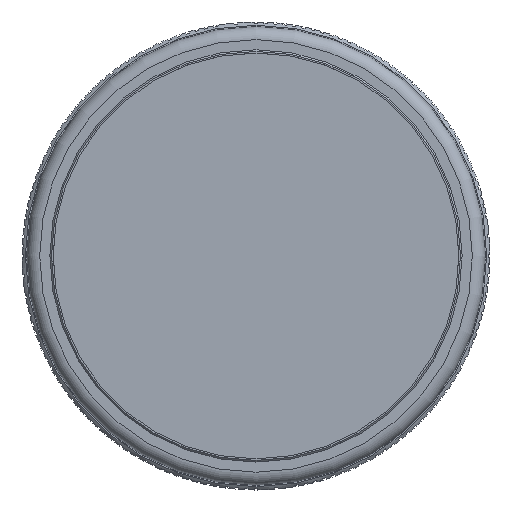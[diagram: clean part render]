
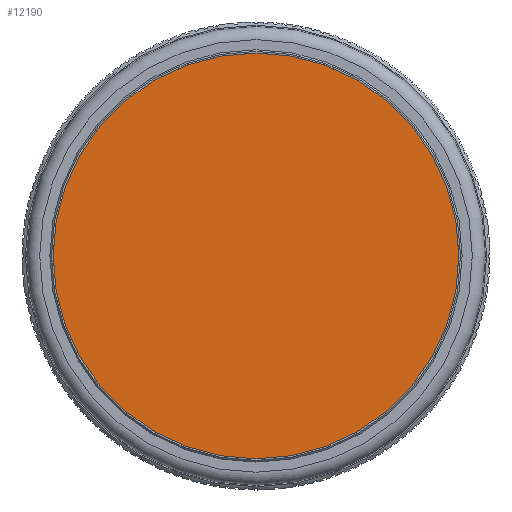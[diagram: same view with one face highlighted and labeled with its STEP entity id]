
A CAD part, top view. The second image highlights one B-rep face of the part: STEP entity #12190.
In plain terms, the highlighted planar face has unit normal (0, 0, 1) as drawn and (-1, 0, 0) by its records, which use the part's own axes.
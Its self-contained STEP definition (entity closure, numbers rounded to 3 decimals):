
#637=PLANE('',#13178);
#1245=FACE_OUTER_BOUND('',#1858,.T.);
#1858=EDGE_LOOP('',(#11426));
#4835=CIRCLE('',#13179,30.999);
#6033=VERTEX_POINT('',#20287);
#7831=EDGE_CURVE('',#6033,#6033,#4835,.T.);
#11426=ORIENTED_EDGE('',*,*,#7831,.F.);
#12190=ADVANCED_FACE('',(#1245),#637,.T.);
#13178=AXIS2_PLACEMENT_3D('',#20286,#16371,#16372);
#13179=AXIS2_PLACEMENT_3D('',#20288,#16373,#16374);
#16371=DIRECTION('center_axis',(-1.,0.,0.));
#16372=DIRECTION('ref_axis',(0.,0.,1.));
#16373=DIRECTION('center_axis',(1.,0.,0.));
#16374=DIRECTION('ref_axis',(0.,1.,0.));
#20286=CARTESIAN_POINT('Origin',(167.935,124.308,0.));
#20287=CARTESIAN_POINT('',(167.935,77.809,0.));
#20288=CARTESIAN_POINT('Origin',(167.935,108.808,0.));
